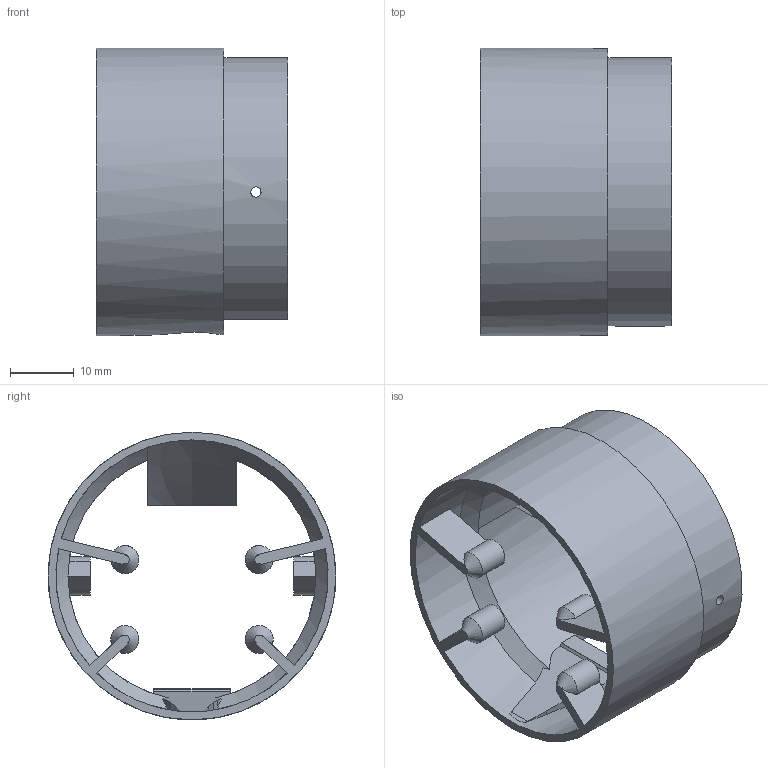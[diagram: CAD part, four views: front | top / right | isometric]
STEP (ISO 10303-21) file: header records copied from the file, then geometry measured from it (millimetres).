
FILE_DESCRIPTION(('Open CASCADE Model'),'2;1');
FILE_NAME('Open CASCADE Shape Model','2026-10-04T08:08:20',('Author'),( 'Open CASCADE'),'Open CASCADE STEP processor 7.9','Open CASCADE 7.9' ,'Unknown');
FILE_SCHEMA(('AUTOMOTIVE_DESIGN { 1 0 10303 214 1 1 1 1 }'));
Length unit declared in the file: millimetre
Products named in the file (1): Open CASCADE STEP translator 7.9 2
Bounding box: 30 x 45 x 45 mm (x, y, z)
Volume: 9316 mm3; surface area: 10305.5 mm2
Topology: 1 solids, 1 shells, 144 faces, 413 edges, 275 vertices
Faces by surface type: plane 91, cylinder 24, bspline 22, cone 7
Full cylindrical faces by diameter (mm): 1.6 x6, 42.6 x1, 45 x1
Entity records: 11637 total; most frequent: CARTESIAN_POINT 4197, DIRECTION 1146, ORIENTED_EDGE 826, PCURVE 826, DEFINITIONAL_REPRESENTATION 826, LINE 628, VECTOR 628, EDGE_CURVE 413
